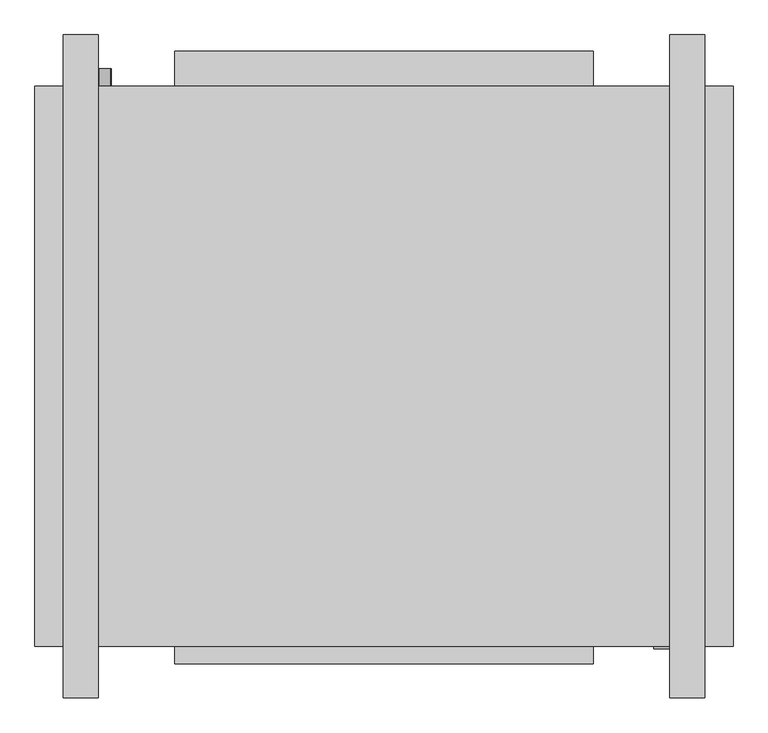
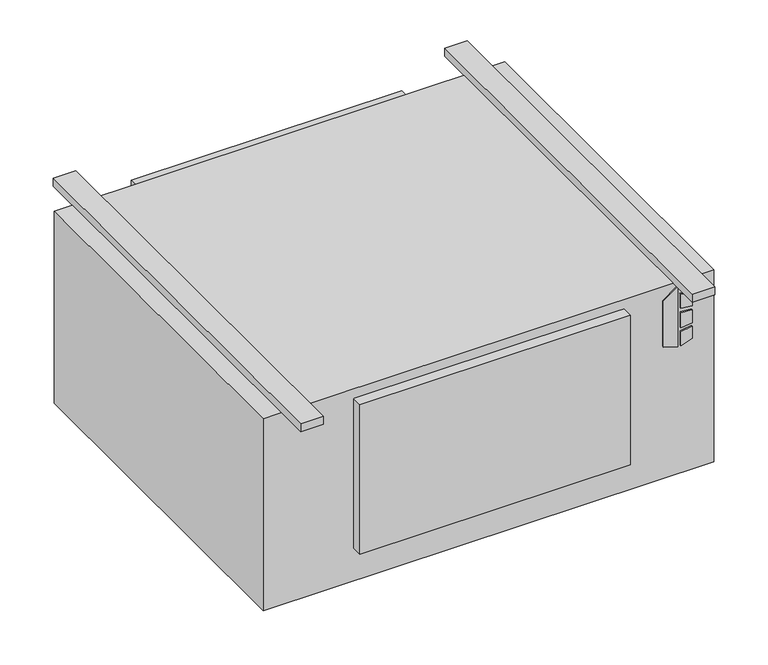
"""IFC4 building model written with IfcOpenShell, lengths in millimetres: proxy geometry, Concealed_High_Capacity_Horizontal_Cabinet_Fan_Coil_Unit_-_HXY_-_IEC_-_2-Pipe_Cool-EHeat_LH_2022 : Size 10 - 277v/60Hz/1Ph - 6 Row 7.0kW."""

from ifc_helpers import new_model, si_unit, point, frame, frame_2d, origin, origin_with_axes, place, context, project, spatial, polyline, circle_curve, trimmed, segment, composite_curve, outline, extrude, source, transform, mapped, element, save


def mechanical_equipment_72f71f54(model_context):
    return source(origin(), model_context, "Body", "SweptSolid", [
        extrude(outline(polyline([(-142.4519297, 544.5868862), (-152.4, 576.7602728), (-10.2290756, 576.7602728), (-33.2510817, 544.5868862), (-142.4519297, 544.5868862)])), frame((0.0, -649.2875, 0.0), z_axis=(0.0, 1.0, 0.0), x_axis=(0.0, 0.0, 1.0)), (0.0, 0.0, 1.0), 3.175),
        extrude(outline(polyline([(-63.4526443, 583.5186058), (-66.6550368, 609.6), (-37.4261958, 609.6), (-29.3617807, 583.5186058), (-63.4526443, 583.5186058)])), frame((0.0, -649.2875, 0.0), z_axis=(0.0, 1.0, 0.0), x_axis=(0.0, 0.0, 1.0)), (0.0, 0.0, 1.0), 3.175),
        extrude(outline(polyline([(-115.3161712, 609.6), (-118.9816721, 583.5186058), (-152.4, 583.5186058), (-143.7657628, 609.6), (-115.3161712, 609.6)])), frame((0.0, -649.2875, 0.0), z_axis=(0.0, 1.0, 0.0), x_axis=(0.0, 0.0, 1.0)), (0.0, 0.0, 1.0), 3.175),
        extrude(outline(polyline([(-76.0010097, 609.6), (-73.7191834, 583.5186058), (-109.6567319, 583.5186058), (-106.9154669, 609.6), (-76.0010097, 609.6)])), frame((0.0, -649.2875, 0.0), z_axis=(0.0, 1.0, 0.0), x_axis=(0.0, 0.0, 1.0)), (0.0, 0.0, 1.0), 3.175),
        extrude(outline(composite_curve([segment(trimmed(circle_curve(frame_2d((-406.4, -254.0)), 9.525), [point((-406.4, -263.525))], [point((-406.4, -244.475))], False, "CARTESIAN"), True, "CONTINUOUS"), segment(trimmed(circle_curve(frame_2d((-406.4, -254.0)), 9.525), [point((-406.4, -244.475))], [point((-406.4, -263.525))], False, "CARTESIAN"), True, "CONTINUOUS")], self_intersect=False)), frame((0.0, 169.8625, 0.0), z_axis=(0.0, 1.0, 0.0), x_axis=(0.0, 0.0, 1.0)), (0.0, 0.0, 1.0), 25.4),
        extrude(outline(composite_curve([segment(trimmed(circle_curve(frame_2d((-330.2, -254.0)), 7.9375), [point((-330.2, -261.9375))], [point((-330.2, -246.0625))], False, "CARTESIAN"), True, "CONTINUOUS"), segment(trimmed(circle_curve(frame_2d((-330.2, -254.0)), 7.9375), [point((-330.2, -246.0625))], [point((-330.2, -261.9375))], False, "CARTESIAN"), True, "CONTINUOUS")], self_intersect=False)), frame((0.0, 169.8625, 0.0), z_axis=(0.0, 1.0, 0.0), x_axis=(0.0, 0.0, 1.0)), (0.0, 0.0, 1.0), 25.4),
        extrude(outline(composite_curve([segment(trimmed(circle_curve(frame_2d((-254.0, -254.0)), 7.9375), [point((-254.0, -261.9375))], [point((-254.0, -246.0625))], False, "CARTESIAN"), True, "CONTINUOUS"), segment(trimmed(circle_curve(frame_2d((-254.0, -254.0)), 7.9375), [point((-254.0, -246.0625))], [point((-254.0, -261.9375))], False, "CARTESIAN"), True, "CONTINUOUS")], self_intersect=False)), frame((0.0, 169.8625, 0.0), z_axis=(0.0, 1.0, 0.0), x_axis=(0.0, 0.0, 1.0)), (0.0, 0.0, 1.0), 25.4),
        extrude(outline(polyline([(660.4, 169.8625), (660.4, -646.1125), (-355.6, -646.1125), (-355.6, 169.8625), (660.4, 169.8625)])), frame((0.0, 0.0, -457.2), z_axis=(0.0, 0.0, 1.0), x_axis=(1.0, 0.0, 0.0)), (0.0, 0.0, 1.0), 457.2),
        extrude(outline(polyline([(-152.4, 220.6625), (457.2, 220.6625), (457.2, 169.8625), (-152.4, 169.8625), (-152.4, 220.6625)])), frame((0.0, 0.0, -377.825), z_axis=(0.0, 0.0, 1.0), x_axis=(1.0, 0.0, 0.0)), (0.0, 0.0, 1.0), 349.25),
        extrude(outline(polyline([(-263.525, 244.475), (-263.525, -720.725), (-314.325, -720.725), (-314.325, 244.475), (-263.525, 244.475)])), origin_with_axes(), (0.0, 0.0, 1.0), 19.05),
        extrude(outline(polyline([(619.125, 244.475), (619.125, -720.725), (568.325, -720.725), (568.325, 244.475), (619.125, 244.475)])), origin_with_axes(), (0.0, 0.0, 1.0), 19.05),
        extrude(outline(polyline([(457.2, -671.5125), (-152.4, -671.5125), (-152.4, -646.1125), (457.2, -646.1125), (457.2, -671.5125)])), frame((0.0, 0.0, -377.825), z_axis=(0.0, 0.0, 1.0), x_axis=(1.0, 0.0, 0.0)), (0.0, 0.0, 1.0), 355.6),
    ])


if __name__ == "__main__":
    model = new_model("IFC4")
    model_context = context("Model", 3, world=origin())
    ifc_project = project(units=[si_unit("LENGTHUNIT", "METRE", prefix="MILLI")], contexts=[model_context])
    site = spatial("IfcSite", under=ifc_project)
    building = spatial("IfcBuilding", under=site)
    placement = place(None, origin())
    mechanical_equipment_shape = mechanical_equipment_72f71f54(model_context)
    element("IfcBuildingElementProxy", 1, Name="Concealed_High_Capacity_Horizontal_Cabinet_Fan_Coil_Unit_-_HXY_-_IEC_-_2-Pipe_Cool-EHeat_LH_2022 : Size 10 - 277v/60Hz/1Ph - 6 Row 7.0kW", ObjectType="Concealed_High_Capacity_Horizontal_Cabinet_Fan_Coil_Unit_-_HXY_-_IEC_-_2-Pipe_Cool-EHeat_LH_2022 : Size 10 - 277v/60Hz/1Ph - 6 Row 7.0kW", at=placement, inside=building, context=model_context, shape_type="MappedRepresentation", body=[
        mapped(mechanical_equipment_shape, transform((0.0, 0.0, 0.0), x_axis=(1.0, 0.0, 0.0), y_axis=(0.0, 1.0, 0.0), z_axis=(0.0, 0.0, 1.0))),
    ])
    save(model, "model.ifc")
